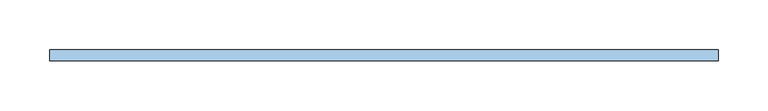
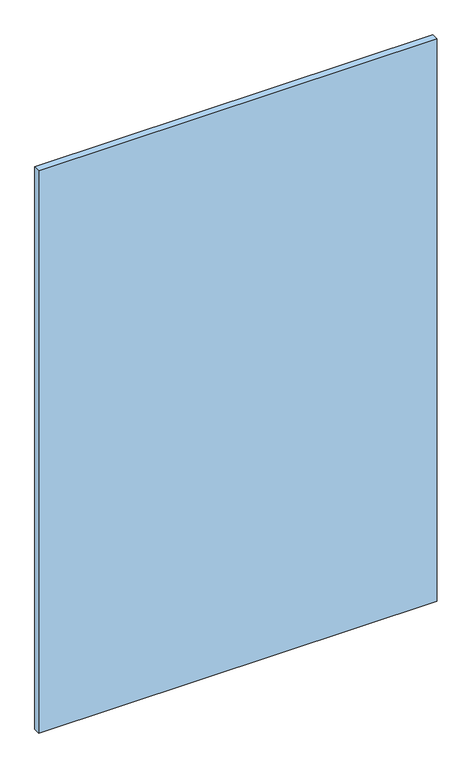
"""IFC4 building model written with IfcOpenShell, lengths in millimetres: window geometry, espejo biselado sin marco : ESP-10 espejo biselado 130 x 105."""

from ifc_helpers import new_model, si_unit, origin, origin_with_axes, place, context, project, spatial, polyline, outline, extrude, source, transform, mapped, element, save


def window_7000303d(model_context):
    return source(origin(), model_context, "Body", "SweptSolid", [
        extrude(outline(polyline([(-335.0, 99.0), (-335.0, 110.0), (335.0, 110.0), (335.0, 99.0), (-335.0, 99.0)])), origin_with_axes(), (0.0, 0.0, 1.0), 1000.0),
    ])


if __name__ == "__main__":
    model = new_model("IFC4")
    model_context = context("Model", 3, world=origin())
    ifc_project = project(units=[si_unit("LENGTHUNIT", "METRE", prefix="MILLI")], contexts=[model_context])
    site = spatial("IfcSite", under=ifc_project)
    building = spatial("IfcBuilding", under=site)
    placement = place(None, origin())
    window_shape = window_7000303d(model_context)
    element("IfcWindow", 1, ObjectType="espejo biselado sin marco : ESP-10 espejo biselado 130 x 105", at=placement, inside=building, context=model_context, shape_type="MappedRepresentation", body=[
        mapped(window_shape, transform((0.0, 0.0, 0.0), x_axis=(1.0, 0.0, 0.0), y_axis=(0.0, 1.0, 0.0), z_axis=(0.0, 0.0, 1.0))),
    ])
    save(model, "model.ifc")
